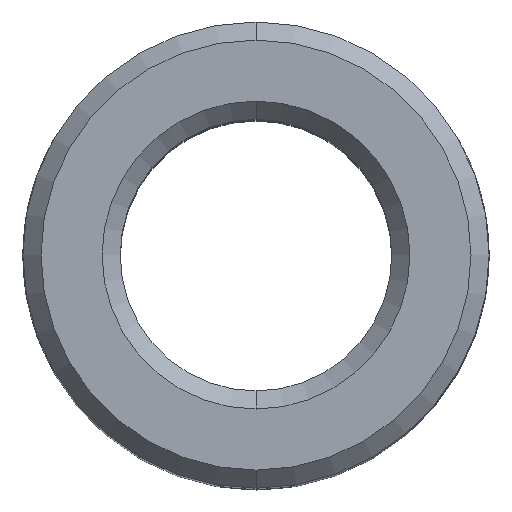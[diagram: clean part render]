
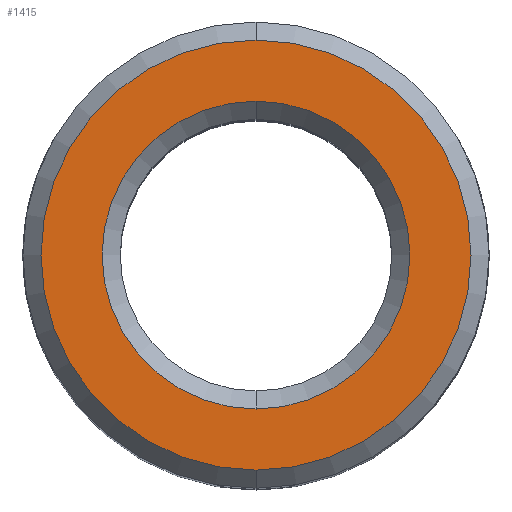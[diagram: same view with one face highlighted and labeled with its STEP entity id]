
A CAD part, top view. The second image highlights one B-rep face of the part: STEP entity #1415.
In plain terms, the highlighted planar face has unit normal (0, 0, 1).
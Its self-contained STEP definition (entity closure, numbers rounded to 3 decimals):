
#30 = ORIENTED_EDGE ( 'NONE', *, *, #1380, .T. ) ;
#85 = ORIENTED_EDGE ( 'NONE', *, *, #1417, .T. ) ;
#104 = EDGE_LOOP ( 'NONE', ( #30, #767 ) ) ;
#105 = CARTESIAN_POINT ( 'NONE',  ( 0., 0., 0. ) ) ;
#108 = DIRECTION ( 'NONE',  ( 0., 0., -1. ) ) ;
#142 = DIRECTION ( 'NONE',  ( 0., 1., 0. ) ) ;
#174 = AXIS2_PLACEMENT_3D ( 'NONE', #1202, #1042, #1225 ) ;
#192 = CIRCLE ( 'NONE', #925, 34. ) ;
#193 = VERTEX_POINT ( 'NONE', #276 ) ;
#276 = CARTESIAN_POINT ( 'NONE',  ( 0., -34., 0. ) ) ;
#326 = ORIENTED_EDGE ( 'NONE', *, *, #1360, .T. ) ;
#351 = CARTESIAN_POINT ( 'NONE',  ( 0., 34., 0. ) ) ;
#413 = CARTESIAN_POINT ( 'NONE',  ( 0., 0., 0. ) ) ;
#415 = CARTESIAN_POINT ( 'NONE',  ( 0., 47.5, 0. ) ) ;
#416 = VERTEX_POINT ( 'NONE', #415 ) ;
#418 = DIRECTION ( 'NONE',  ( 0., 0., -1. ) ) ;
#424 = DIRECTION ( 'NONE',  ( 0., 1., 0. ) ) ;
#448 = AXIS2_PLACEMENT_3D ( 'NONE', #1052, #1134, #1456 ) ;
#592 = FACE_OUTER_BOUND ( 'NONE', #1082, .T. ) ;
#622 = CARTESIAN_POINT ( 'NONE',  ( 0., -47.5, 0. ) ) ;
#631 = FACE_BOUND ( 'NONE', #104, .T. ) ;
#767 = ORIENTED_EDGE ( 'NONE', *, *, #903, .T. ) ;
#851 = VERTEX_POINT ( 'NONE', #351 ) ;
#896 = CIRCLE ( 'NONE', #174, 47.5 ) ;
#903 = EDGE_CURVE ( 'NONE', #851, #193, #192, .T. ) ;
#925 = AXIS2_PLACEMENT_3D ( 'NONE', #413, #418, #424 ) ;
#984 = CIRCLE ( 'NONE', #1351, 34. ) ;
#1027 = VERTEX_POINT ( 'NONE', #622 ) ;
#1042 = DIRECTION ( 'NONE',  ( 0., 0., 1. ) ) ;
#1052 = CARTESIAN_POINT ( 'NONE',  ( 0., 30., 0. ) ) ;
#1082 = EDGE_LOOP ( 'NONE', ( #85, #326 ) ) ;
#1134 = DIRECTION ( 'NONE',  ( 0., 0., -1. ) ) ;
#1182 = AXIS2_PLACEMENT_3D ( 'NONE', #1267, #1270, #1338 ) ;
#1202 = CARTESIAN_POINT ( 'NONE',  ( 0., 0., 0. ) ) ;
#1225 = DIRECTION ( 'NONE',  ( 0., 1., 0. ) ) ;
#1267 = CARTESIAN_POINT ( 'NONE',  ( 0., 0., 0. ) ) ;
#1270 = DIRECTION ( 'NONE',  ( 0., 0., 1. ) ) ;
#1338 = DIRECTION ( 'NONE',  ( 0., 1., 0. ) ) ;
#1351 = AXIS2_PLACEMENT_3D ( 'NONE', #105, #108, #142 ) ;
#1360 = EDGE_CURVE ( 'NONE', #1027, #416, #1457, .T. ) ;
#1380 = EDGE_CURVE ( 'NONE', #193, #851, #984, .T. ) ;
#1388 = PLANE ( 'NONE',  #448 ) ;
#1415 = ADVANCED_FACE ( 'NONE', ( #631, #592 ), #1388, .F. ) ;
#1417 = EDGE_CURVE ( 'NONE', #416, #1027, #896, .T. ) ;
#1456 = DIRECTION ( 'NONE',  ( 0., 1., 0. ) ) ;
#1457 = CIRCLE ( 'NONE', #1182, 47.5 ) ;
